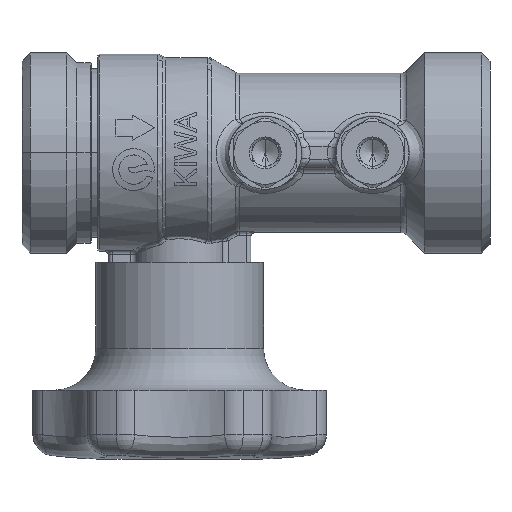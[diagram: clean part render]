
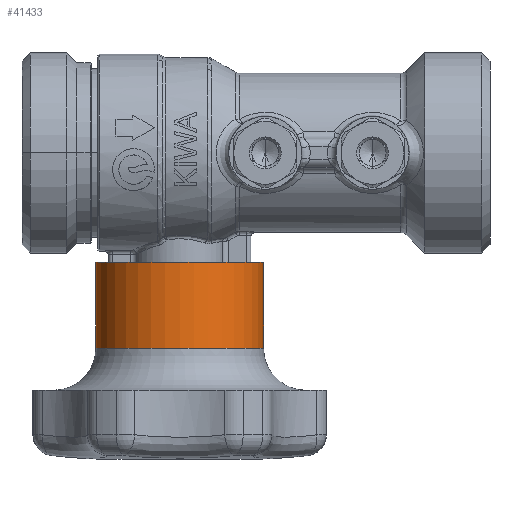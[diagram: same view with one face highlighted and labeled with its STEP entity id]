
A CAD part, front view. The second image highlights one B-rep face of the part: STEP entity #41433.
In plain terms, the highlighted cylindrical face has radius 20 mm (diameter 40 mm), a partial arc.
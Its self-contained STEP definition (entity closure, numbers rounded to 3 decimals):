
#975 = CARTESIAN_POINT ( 'NONE',  ( 0., 0., -20. ) ) ;
#2985 = ORIENTED_EDGE ( 'NONE', *, *, #38838, .F. ) ;
#3676 = CARTESIAN_POINT ( 'NONE',  ( 0., -0.9, 0. ) ) ;
#3848 = DIRECTION ( 'NONE',  ( 0., 0., -1. ) ) ;
#4759 = CIRCLE ( 'NONE', #33436, 20. ) ;
#5099 = LINE ( 'NONE', #975, #48994 ) ;
#5389 = EDGE_CURVE ( 'NONE', #46658, #31360, #5099, .T. ) ;
#5504 = ORIENTED_EDGE ( 'NONE', *, *, #5389, .T. ) ;
#9981 = DIRECTION ( 'NONE',  ( 0., -1., 0. ) ) ;
#10155 = CARTESIAN_POINT ( 'NONE',  ( 0., -21.4, 0. ) ) ;
#11791 = DIRECTION ( 'NONE',  ( 0., -1., 0. ) ) ;
#11973 = DIRECTION ( 'NONE',  ( 0., -1., 0. ) ) ;
#15233 = FACE_OUTER_BOUND ( 'NONE', #52413, .T. ) ;
#17674 = ORIENTED_EDGE ( 'NONE', *, *, #42487, .T. ) ;
#19811 = VERTEX_POINT ( 'NONE', #35432 ) ;
#21392 = EDGE_CURVE ( 'NONE', #19811, #31360, #34553, .T. ) ;
#23314 = VECTOR ( 'NONE', #48564, 1000. ) ;
#29698 = CARTESIAN_POINT ( 'NONE',  ( 0., -0.9, -20. ) ) ;
#31360 = VERTEX_POINT ( 'NONE', #47144 ) ;
#33436 = AXIS2_PLACEMENT_3D ( 'NONE', #3676, #11973, #3848 ) ;
#34553 = CIRCLE ( 'NONE', #53191, 20. ) ;
#35432 = CARTESIAN_POINT ( 'NONE',  ( 0., -21.4, 20. ) ) ;
#37834 = AXIS2_PLACEMENT_3D ( 'NONE', #44963, #11791, #53287 ) ;
#38744 = DIRECTION ( 'NONE',  ( 0., -1., 0. ) ) ;
#38838 = EDGE_CURVE ( 'NONE', #45883, #19811, #49799, .T. ) ;
#38961 = DIRECTION ( 'NONE',  ( 0., 0., -1. ) ) ;
#40284 = CARTESIAN_POINT ( 'NONE',  ( 0., -0.9, 20. ) ) ;
#41433 = ADVANCED_FACE ( 'NONE', ( #15233 ), #45549, .T. ) ;
#42487 = EDGE_CURVE ( 'NONE', #45883, #46658, #4759, .T. ) ;
#44963 = CARTESIAN_POINT ( 'NONE',  ( 0., 0., 0. ) ) ;
#45549 = CYLINDRICAL_SURFACE ( 'NONE', #37834, 20. ) ;
#45883 = VERTEX_POINT ( 'NONE', #40284 ) ;
#46658 = VERTEX_POINT ( 'NONE', #29698 ) ;
#47144 = CARTESIAN_POINT ( 'NONE',  ( 0., -21.4, -20. ) ) ;
#48564 = DIRECTION ( 'NONE',  ( 0., -1., 0. ) ) ;
#48994 = VECTOR ( 'NONE', #38744, 1000. ) ;
#49090 = CARTESIAN_POINT ( 'NONE',  ( 0., 0., 20. ) ) ;
#49799 = LINE ( 'NONE', #49090, #23314 ) ;
#50629 = ORIENTED_EDGE ( 'NONE', *, *, #21392, .F. ) ;
#52413 = EDGE_LOOP ( 'NONE', ( #2985, #17674, #5504, #50629 ) ) ;
#53191 = AXIS2_PLACEMENT_3D ( 'NONE', #10155, #9981, #38961 ) ;
#53287 = DIRECTION ( 'NONE',  ( 0., 0., -1. ) ) ;
